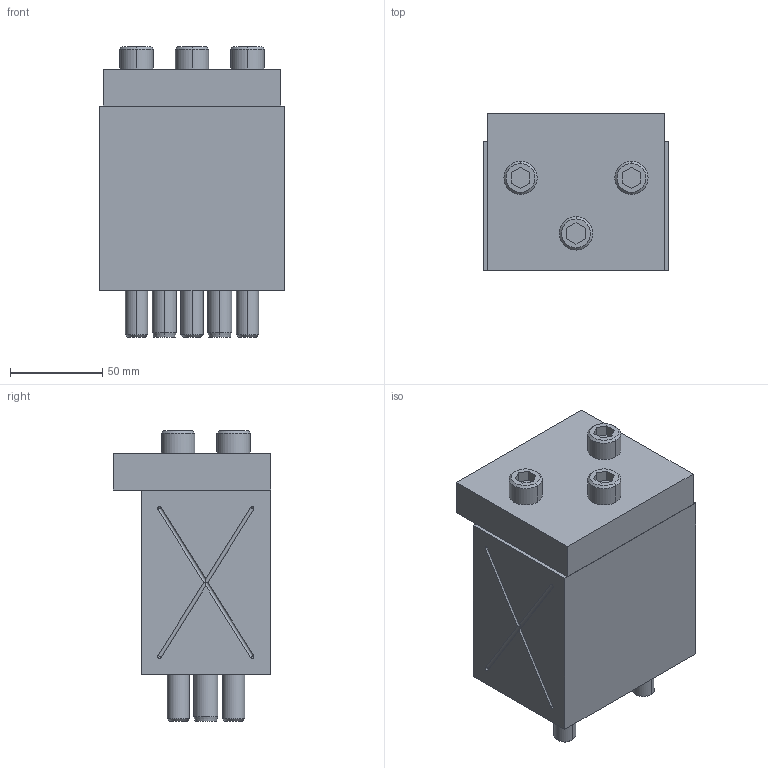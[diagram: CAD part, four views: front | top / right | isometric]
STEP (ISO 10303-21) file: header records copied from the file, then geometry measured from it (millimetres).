
FILE_DESCRIPTION((''),'2;1');
FILE_NAME('','2010-09-29T17:41:45+09:00',('misumi'),(''),'M/STEP i/f 1R2-14','CADmeister v5.1','');
FILE_SCHEMA(('AUTOMOTIVE_DESIGN'));
Length unit declared in the file: millimetre
Products named in the file (1): KEPNZ100-100-20
Bounding box: 100 x 85 x 157 mm (x, y, z)
Volume: 794624.4 mm3; surface area: 126114.2 mm2
Topology: 10 solids, 10 shells, 206 faces, 472 edges, 299 vertices
Faces by surface type: plane 86, cylinder 76, cone 32, revolution 12
Entity records: 8692 total; most frequent: CARTESIAN_POINT 1068, DIRECTION 1064, ORIENTED_EDGE 920, COLOUR_RGB 628, CURVE_STYLE 547, PRESENTATION_STYLE_ASSIGNMENT 537, OVER_RIDING_STYLED_ITEM 527, EDGE_CURVE 460
